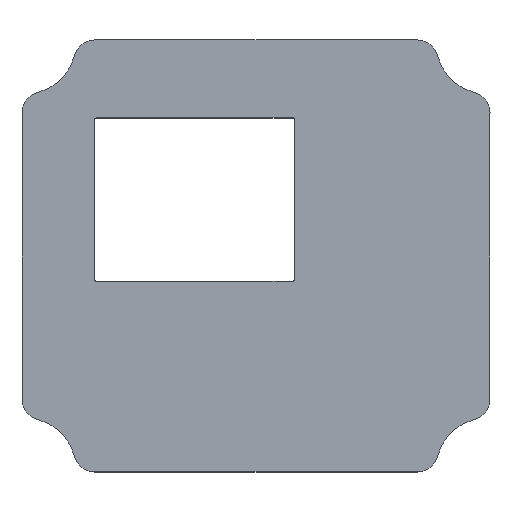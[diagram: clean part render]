
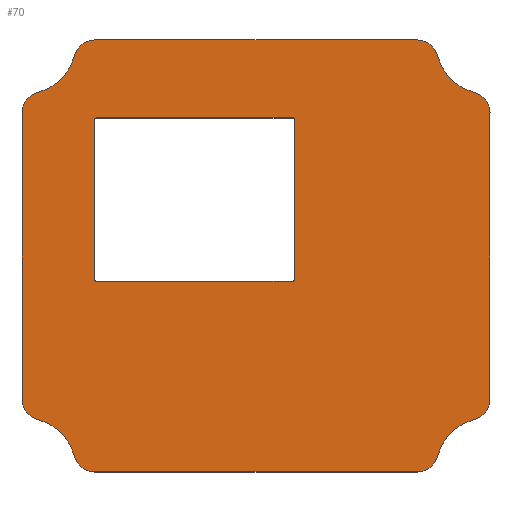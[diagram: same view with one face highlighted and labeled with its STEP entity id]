
A CAD part, top view. The second image highlights one B-rep face of the part: STEP entity #70.
In plain terms, the highlighted planar face has unit normal (0, 0, 1).
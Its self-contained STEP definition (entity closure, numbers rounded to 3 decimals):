
#70=ADVANCED_FACE('',(#122,#96),#296,.T.);
#96=FACE_OUTER_BOUND('',#125,.F.);
#122=FACE_BOUND('',#124,.F.);
#124=EDGE_LOOP('',(#152,#153,#154,#155,#156,#157,#158,#159));
#125=EDGE_LOOP('',(#160,#161,#162,#163,#164,#165,#166,#167,#168,#169,#170,
#171,#172,#173,#174,#175));
#152=ORIENTED_EDGE('',*,*,#339,.T.);
#153=ORIENTED_EDGE('',*,*,#352,.T.);
#154=ORIENTED_EDGE('',*,*,#351,.T.);
#155=ORIENTED_EDGE('',*,*,#348,.T.);
#156=ORIENTED_EDGE('',*,*,#347,.T.);
#157=ORIENTED_EDGE('',*,*,#344,.T.);
#158=ORIENTED_EDGE('',*,*,#343,.T.);
#159=ORIENTED_EDGE('',*,*,#340,.T.);
#160=ORIENTED_EDGE('',*,*,#354,.F.);
#161=ORIENTED_EDGE('',*,*,#369,.T.);
#162=ORIENTED_EDGE('',*,*,#368,.F.);
#163=ORIENTED_EDGE('',*,*,#367,.T.);
#164=ORIENTED_EDGE('',*,*,#366,.F.);
#165=ORIENTED_EDGE('',*,*,#365,.T.);
#166=ORIENTED_EDGE('',*,*,#364,.F.);
#167=ORIENTED_EDGE('',*,*,#363,.T.);
#168=ORIENTED_EDGE('',*,*,#362,.F.);
#169=ORIENTED_EDGE('',*,*,#361,.T.);
#170=ORIENTED_EDGE('',*,*,#360,.F.);
#171=ORIENTED_EDGE('',*,*,#359,.T.);
#172=ORIENTED_EDGE('',*,*,#358,.F.);
#173=ORIENTED_EDGE('',*,*,#357,.T.);
#174=ORIENTED_EDGE('',*,*,#356,.F.);
#175=ORIENTED_EDGE('',*,*,#355,.T.);
#296=PLANE('',#572);
#306=CIRCLE('',#540,0.15);
#308=CIRCLE('',#542,0.15);
#310=CIRCLE('',#544,0.15);
#312=CIRCLE('',#546,0.15);
#314=CIRCLE('',#548,1.75);
#315=CIRCLE('',#549,4.25);
#316=CIRCLE('',#550,1.75);
#317=CIRCLE('',#551,1.75);
#318=CIRCLE('',#552,4.25);
#319=CIRCLE('',#553,1.75);
#320=CIRCLE('',#554,1.75);
#321=CIRCLE('',#555,4.25);
#322=CIRCLE('',#556,1.75);
#323=CIRCLE('',#557,1.75);
#324=CIRCLE('',#558,4.25);
#325=CIRCLE('',#559,1.75);
#339=EDGE_CURVE('',#535,#534,#411,.T.);
#340=EDGE_CURVE('',#533,#535,#306,.T.);
#343=EDGE_CURVE('',#530,#533,#413,.T.);
#344=EDGE_CURVE('',#529,#530,#308,.T.);
#347=EDGE_CURVE('',#526,#529,#415,.T.);
#348=EDGE_CURVE('',#525,#526,#310,.T.);
#351=EDGE_CURVE('',#522,#525,#417,.T.);
#352=EDGE_CURVE('',#534,#522,#312,.T.);
#354=EDGE_CURVE('',#521,#520,#314,.T.);
#355=EDGE_CURVE('',#519,#520,#315,.T.);
#356=EDGE_CURVE('',#519,#518,#316,.T.);
#357=EDGE_CURVE('',#517,#518,#418,.T.);
#358=EDGE_CURVE('',#517,#516,#317,.T.);
#359=EDGE_CURVE('',#515,#516,#318,.T.);
#360=EDGE_CURVE('',#515,#514,#319,.T.);
#361=EDGE_CURVE('',#513,#514,#419,.T.);
#362=EDGE_CURVE('',#513,#512,#320,.T.);
#363=EDGE_CURVE('',#511,#512,#321,.T.);
#364=EDGE_CURVE('',#511,#510,#322,.T.);
#365=EDGE_CURVE('',#509,#510,#420,.T.);
#366=EDGE_CURVE('',#509,#508,#323,.T.);
#367=EDGE_CURVE('',#507,#508,#324,.T.);
#368=EDGE_CURVE('',#507,#506,#325,.T.);
#369=EDGE_CURVE('',#521,#506,#421,.T.);
#411=LINE('',#809,#451);
#413=LINE('',#813,#453);
#415=LINE('',#817,#455);
#417=LINE('',#821,#457);
#418=LINE('',#827,#458);
#419=LINE('',#831,#459);
#420=LINE('',#835,#460);
#421=LINE('',#839,#461);
#451=VECTOR('',#602,13.3);
#453=VECTOR('',#608,16.4);
#455=VECTOR('',#614,13.3);
#457=VECTOR('',#620,16.4);
#458=VECTOR('',#631,26.881);
#459=VECTOR('',#638,23.881);
#460=VECTOR('',#645,26.881);
#461=VECTOR('',#652,23.881);
#506=VERTEX_POINT('',#776);
#507=VERTEX_POINT('',#777);
#508=VERTEX_POINT('',#778);
#509=VERTEX_POINT('',#779);
#510=VERTEX_POINT('',#780);
#511=VERTEX_POINT('',#781);
#512=VERTEX_POINT('',#782);
#513=VERTEX_POINT('',#783);
#514=VERTEX_POINT('',#784);
#515=VERTEX_POINT('',#785);
#516=VERTEX_POINT('',#786);
#517=VERTEX_POINT('',#787);
#518=VERTEX_POINT('',#788);
#519=VERTEX_POINT('',#789);
#520=VERTEX_POINT('',#790);
#521=VERTEX_POINT('',#791);
#522=VERTEX_POINT('',#792);
#525=VERTEX_POINT('',#795);
#526=VERTEX_POINT('',#796);
#529=VERTEX_POINT('',#799);
#530=VERTEX_POINT('',#800);
#533=VERTEX_POINT('',#803);
#534=VERTEX_POINT('',#804);
#535=VERTEX_POINT('',#805);
#540=AXIS2_PLACEMENT_3D('',#810,#603,#604);
#542=AXIS2_PLACEMENT_3D('',#814,#609,#610);
#544=AXIS2_PLACEMENT_3D('',#818,#615,#616);
#546=AXIS2_PLACEMENT_3D('',#822,#621,#622);
#548=AXIS2_PLACEMENT_3D('',#824,#625,#626);
#549=AXIS2_PLACEMENT_3D('',#825,#627,#628);
#550=AXIS2_PLACEMENT_3D('',#826,#629,#630);
#551=AXIS2_PLACEMENT_3D('',#828,#632,#633);
#552=AXIS2_PLACEMENT_3D('',#829,#634,#635);
#553=AXIS2_PLACEMENT_3D('',#830,#636,#637);
#554=AXIS2_PLACEMENT_3D('',#832,#639,#640);
#555=AXIS2_PLACEMENT_3D('',#833,#641,#642);
#556=AXIS2_PLACEMENT_3D('',#834,#643,#644);
#557=AXIS2_PLACEMENT_3D('',#836,#646,#647);
#558=AXIS2_PLACEMENT_3D('',#837,#648,#649);
#559=AXIS2_PLACEMENT_3D('',#838,#650,#651);
#572=AXIS2_PLACEMENT_3D('',#880,#705,#706);
#602=DIRECTION('',(0.,-1.,0.));
#603=DIRECTION('',(0.,0.,1.));
#604=DIRECTION('',(0.,1.,0.));
#608=DIRECTION('',(-1.,0.,0.));
#609=DIRECTION('',(0.,0.,1.));
#610=DIRECTION('',(1.,0.,0.));
#614=DIRECTION('',(0.,1.,0.));
#615=DIRECTION('',(0.,0.,1.));
#616=DIRECTION('',(0.,-1.,0.));
#620=DIRECTION('',(1.,0.,0.));
#621=DIRECTION('',(0.,0.,1.));
#622=DIRECTION('',(-1.,0.,0.));
#625=DIRECTION('',(0.,0.,1.));
#626=DIRECTION('',(-1.,0.,0.));
#627=DIRECTION('',(0.,0.,1.));
#628=DIRECTION('',(0.968,0.25,0.));
#629=DIRECTION('',(0.,0.,1.));
#630=DIRECTION('',(-0.968,-0.25,0.));
#631=DIRECTION('',(-1.,0.,0.));
#632=DIRECTION('',(0.,0.,1.));
#633=DIRECTION('',(0.,-1.,0.));
#634=DIRECTION('',(0.,0.,1.));
#635=DIRECTION('',(-0.25,0.968,0.));
#636=DIRECTION('',(0.,0.,1.));
#637=DIRECTION('',(0.25,-0.968,0.));
#638=DIRECTION('',(0.,-1.,0.));
#639=DIRECTION('',(0.,0.,1.));
#640=DIRECTION('',(1.,0.,0.));
#641=DIRECTION('',(0.,0.,1.));
#642=DIRECTION('',(-0.968,-0.25,0.));
#643=DIRECTION('',(0.,0.,1.));
#644=DIRECTION('',(0.968,0.25,0.));
#645=DIRECTION('',(1.,0.,0.));
#646=DIRECTION('',(0.,0.,1.));
#647=DIRECTION('',(0.,1.,0.));
#648=DIRECTION('',(0.,0.,1.));
#649=DIRECTION('',(0.25,-0.968,0.));
#650=DIRECTION('',(0.,0.,1.));
#651=DIRECTION('',(-0.25,0.968,0.));
#652=DIRECTION('',(0.,1.,0.));
#705=DIRECTION('',(0.,0.,1.));
#706=DIRECTION('',(1.,0.,0.));
#776=CARTESIAN_POINT('',(-14.743,11.495,-72.627));
#777=CARTESIAN_POINT('',(-13.431,13.189,-72.627));
#778=CARTESIAN_POINT('',(-10.378,16.242,-72.627));
#779=CARTESIAN_POINT('',(-8.684,17.554,-72.627));
#780=CARTESIAN_POINT('',(18.197,17.554,-72.627));
#781=CARTESIAN_POINT('',(19.892,16.242,-72.627));
#782=CARTESIAN_POINT('',(22.944,13.189,-72.627));
#783=CARTESIAN_POINT('',(24.257,11.495,-72.627));
#784=CARTESIAN_POINT('',(24.257,-12.386,-72.627));
#785=CARTESIAN_POINT('',(22.944,-14.081,-72.627));
#786=CARTESIAN_POINT('',(19.892,-17.133,-72.627));
#787=CARTESIAN_POINT('',(18.197,-18.446,-72.627));
#788=CARTESIAN_POINT('',(-8.684,-18.446,-72.627));
#789=CARTESIAN_POINT('',(-10.378,-17.133,-72.627));
#790=CARTESIAN_POINT('',(-13.43,-14.081,-72.627));
#791=CARTESIAN_POINT('',(-14.743,-12.386,-72.627));
#792=CARTESIAN_POINT('',(-8.553,-2.546,-72.627));
#795=CARTESIAN_POINT('',(7.847,-2.546,-72.627));
#796=CARTESIAN_POINT('',(7.997,-2.396,-72.627));
#799=CARTESIAN_POINT('',(7.997,10.904,-72.627));
#800=CARTESIAN_POINT('',(7.847,11.054,-72.627));
#803=CARTESIAN_POINT('',(-8.553,11.054,-72.627));
#804=CARTESIAN_POINT('',(-8.703,-2.396,-72.627));
#805=CARTESIAN_POINT('',(-8.703,10.904,-72.627));
#809=CARTESIAN_POINT('',(-8.703,10.904,-72.627));
#810=CARTESIAN_POINT('',(-8.553,10.904,-72.627));
#813=CARTESIAN_POINT('',(7.847,11.054,-72.627));
#814=CARTESIAN_POINT('',(7.847,10.904,-72.627));
#817=CARTESIAN_POINT('',(7.997,-2.396,-72.627));
#818=CARTESIAN_POINT('',(7.847,-2.396,-72.627));
#821=CARTESIAN_POINT('',(-8.553,-2.546,-72.627));
#822=CARTESIAN_POINT('',(-8.553,-2.396,-72.627));
#824=CARTESIAN_POINT('',(-12.993,-12.386,-72.627));
#825=CARTESIAN_POINT('',(-14.493,-18.196,-72.627));
#826=CARTESIAN_POINT('',(-8.684,-16.696,-72.627));
#827=CARTESIAN_POINT('',(18.197,-18.446,-72.627));
#828=CARTESIAN_POINT('',(18.197,-16.696,-72.627));
#829=CARTESIAN_POINT('',(24.007,-18.196,-72.627));
#830=CARTESIAN_POINT('',(22.507,-12.386,-72.627));
#831=CARTESIAN_POINT('',(24.257,11.495,-72.627));
#832=CARTESIAN_POINT('',(22.507,11.495,-72.627));
#833=CARTESIAN_POINT('',(24.007,17.304,-72.627));
#834=CARTESIAN_POINT('',(18.197,15.804,-72.627));
#835=CARTESIAN_POINT('',(-8.684,17.554,-72.627));
#836=CARTESIAN_POINT('',(-8.684,15.804,-72.627));
#837=CARTESIAN_POINT('',(-14.493,17.304,-72.627));
#838=CARTESIAN_POINT('',(-12.993,11.495,-72.627));
#839=CARTESIAN_POINT('',(-14.743,-12.386,-72.627));
#880=CARTESIAN_POINT('',(-15.136,-18.838,-72.627));
